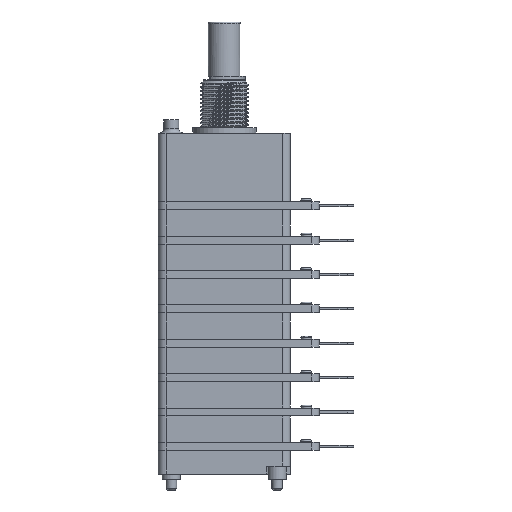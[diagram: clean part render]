
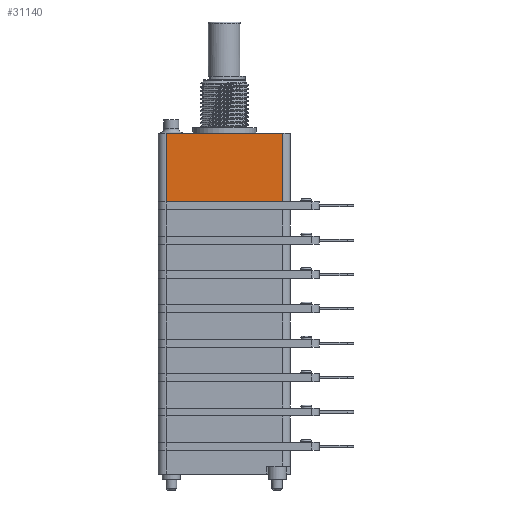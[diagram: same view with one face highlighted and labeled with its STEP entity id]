
A CAD part, left-side view. The second image highlights one B-rep face of the part: STEP entity #31140.
In plain terms, the highlighted planar face has unit normal (-1, 0, 0).
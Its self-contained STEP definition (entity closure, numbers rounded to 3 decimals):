
#27494 = PLANE('',#27495);
#27495 = AXIS2_PLACEMENT_3D('',#27496,#27497,#27498);
#27496 = CARTESIAN_POINT('',(-12.5,-18.,-15.5));
#27497 = DIRECTION('',(1.,0.,0.));
#27498 = DIRECTION('',(0.,0.,1.));
#29215 = VERTEX_POINT('',#29216);
#29216 = CARTESIAN_POINT('',(-12.5,-11.,-14.));
#29383 = CYLINDRICAL_SURFACE('',#29384,1.5);
#29384 = AXIS2_PLACEMENT_3D('',#29385,#29386,#29387);
#29385 = CARTESIAN_POINT('',(-11.,-11.,-14.));
#29386 = DIRECTION('',(0.,0.,1.));
#29387 = DIRECTION('',(-1.,0.,0.));
#29521 = PLANE('',#29522);
#29522 = AXIS2_PLACEMENT_3D('',#29523,#29524,#29525);
#29523 = CARTESIAN_POINT('',(-12.5,-12.5,-1.));
#29524 = DIRECTION('',(0.,0.,1.));
#29525 = DIRECTION('',(1.,0.,0.));
#29663 = VERTEX_POINT('',#29664);
#29664 = CARTESIAN_POINT('',(-12.5,11.,-14.));
#29679 = CYLINDRICAL_SURFACE('',#29680,1.5);
#29680 = AXIS2_PLACEMENT_3D('',#29681,#29682,#29683);
#29681 = CARTESIAN_POINT('',(-11.,11.,-14.));
#29682 = DIRECTION('',(0.,0.,1.));
#29683 = DIRECTION('',(-1.,0.,0.));
#29788 = EDGE_CURVE('',#29215,#29663,#29789,.T.);
#29789 = SURFACE_CURVE('',#29790,(#29794,#29801),.PCURVE_S1.);
#29790 = LINE('',#29791,#29792);
#29791 = CARTESIAN_POINT('',(-12.5,-18.,-14.));
#29792 = VECTOR('',#29793,1.);
#29793 = DIRECTION('',(0.,1.,0.));
#29794 = PCURVE('',#27494,#29795);
#29795 = DEFINITIONAL_REPRESENTATION('',(#29796),#29800);
#29796 = LINE('',#29797,#29798);
#29797 = CARTESIAN_POINT('',(1.5,0.));
#29798 = VECTOR('',#29799,1.);
#29799 = DIRECTION('',(0.,-1.));
#29800 = ( GEOMETRIC_REPRESENTATION_CONTEXT(2) 
PARAMETRIC_REPRESENTATION_CONTEXT() REPRESENTATION_CONTEXT('2D SPACE',''
  ) );
#29801 = PCURVE('',#29802,#29807);
#29802 = PLANE('',#29803);
#29803 = AXIS2_PLACEMENT_3D('',#29804,#29805,#29806);
#29804 = CARTESIAN_POINT('',(-12.5,-12.5,-14.));
#29805 = DIRECTION('',(1.,0.,0.));
#29806 = DIRECTION('',(0.,0.,1.));
#29807 = DEFINITIONAL_REPRESENTATION('',(#29808),#29812);
#29808 = LINE('',#29809,#29810);
#29809 = CARTESIAN_POINT('',(0.,5.5));
#29810 = VECTOR('',#29811,1.);
#29811 = DIRECTION('',(0.,-1.));
#29812 = ( GEOMETRIC_REPRESENTATION_CONTEXT(2) 
PARAMETRIC_REPRESENTATION_CONTEXT() REPRESENTATION_CONTEXT('2D SPACE',''
  ) );
#30638 = VERTEX_POINT('',#30639);
#30639 = CARTESIAN_POINT('',(-12.5,-11.,-1.));
#30661 = EDGE_CURVE('',#29215,#30638,#30662,.T.);
#30662 = SURFACE_CURVE('',#30663,(#30667,#30674),.PCURVE_S1.);
#30663 = LINE('',#30664,#30665);
#30664 = CARTESIAN_POINT('',(-12.5,-11.,-14.));
#30665 = VECTOR('',#30666,1.);
#30666 = DIRECTION('',(0.,0.,1.));
#30667 = PCURVE('',#29383,#30668);
#30668 = DEFINITIONAL_REPRESENTATION('',(#30669),#30673);
#30669 = LINE('',#30670,#30671);
#30670 = CARTESIAN_POINT('',(0.,0.));
#30671 = VECTOR('',#30672,1.);
#30672 = DIRECTION('',(0.,1.));
#30673 = ( GEOMETRIC_REPRESENTATION_CONTEXT(2) 
PARAMETRIC_REPRESENTATION_CONTEXT() REPRESENTATION_CONTEXT('2D SPACE',''
  ) );
#30674 = PCURVE('',#29802,#30675);
#30675 = DEFINITIONAL_REPRESENTATION('',(#30676),#30680);
#30676 = LINE('',#30677,#30678);
#30677 = CARTESIAN_POINT('',(0.,-1.5));
#30678 = VECTOR('',#30679,1.);
#30679 = DIRECTION('',(1.,0.));
#30680 = ( GEOMETRIC_REPRESENTATION_CONTEXT(2) 
PARAMETRIC_REPRESENTATION_CONTEXT() REPRESENTATION_CONTEXT('2D SPACE',''
  ) );
#30927 = EDGE_CURVE('',#30638,#30928,#30930,.T.);
#30928 = VERTEX_POINT('',#30929);
#30929 = CARTESIAN_POINT('',(-12.5,11.,-1.));
#30930 = SURFACE_CURVE('',#30931,(#30935,#30942),.PCURVE_S1.);
#30931 = LINE('',#30932,#30933);
#30932 = CARTESIAN_POINT('',(-12.5,-12.5,-1.));
#30933 = VECTOR('',#30934,1.);
#30934 = DIRECTION('',(0.,1.,0.));
#30935 = PCURVE('',#29521,#30936);
#30936 = DEFINITIONAL_REPRESENTATION('',(#30937),#30941);
#30937 = LINE('',#30938,#30939);
#30938 = CARTESIAN_POINT('',(0.,0.));
#30939 = VECTOR('',#30940,1.);
#30940 = DIRECTION('',(0.,1.));
#30941 = ( GEOMETRIC_REPRESENTATION_CONTEXT(2) 
PARAMETRIC_REPRESENTATION_CONTEXT() REPRESENTATION_CONTEXT('2D SPACE',''
  ) );
#30942 = PCURVE('',#29802,#30943);
#30943 = DEFINITIONAL_REPRESENTATION('',(#30944),#30948);
#30944 = LINE('',#30945,#30946);
#30945 = CARTESIAN_POINT('',(13.,0.));
#30946 = VECTOR('',#30947,1.);
#30947 = DIRECTION('',(0.,-1.));
#30948 = ( GEOMETRIC_REPRESENTATION_CONTEXT(2) 
PARAMETRIC_REPRESENTATION_CONTEXT() REPRESENTATION_CONTEXT('2D SPACE',''
  ) );
#31120 = EDGE_CURVE('',#29663,#30928,#31121,.T.);
#31121 = SURFACE_CURVE('',#31122,(#31126,#31133),.PCURVE_S1.);
#31122 = LINE('',#31123,#31124);
#31123 = CARTESIAN_POINT('',(-12.5,11.,-14.));
#31124 = VECTOR('',#31125,1.);
#31125 = DIRECTION('',(0.,0.,1.));
#31126 = PCURVE('',#29679,#31127);
#31127 = DEFINITIONAL_REPRESENTATION('',(#31128),#31132);
#31128 = LINE('',#31129,#31130);
#31129 = CARTESIAN_POINT('',(-0.,0.));
#31130 = VECTOR('',#31131,1.);
#31131 = DIRECTION('',(-0.,1.));
#31132 = ( GEOMETRIC_REPRESENTATION_CONTEXT(2) 
PARAMETRIC_REPRESENTATION_CONTEXT() REPRESENTATION_CONTEXT('2D SPACE',''
  ) );
#31133 = PCURVE('',#29802,#31134);
#31134 = DEFINITIONAL_REPRESENTATION('',(#31135),#31139);
#31135 = LINE('',#31136,#31137);
#31136 = CARTESIAN_POINT('',(0.,-23.5));
#31137 = VECTOR('',#31138,1.);
#31138 = DIRECTION('',(1.,0.));
#31139 = ( GEOMETRIC_REPRESENTATION_CONTEXT(2) 
PARAMETRIC_REPRESENTATION_CONTEXT() REPRESENTATION_CONTEXT('2D SPACE',''
  ) );
#31140 = ADVANCED_FACE('',(#31141),#29802,.F.);
#31141 = FACE_BOUND('',#31142,.F.);
#31142 = EDGE_LOOP('',(#31143,#31144,#31145,#31146));
#31143 = ORIENTED_EDGE('',*,*,#30927,.F.);
#31144 = ORIENTED_EDGE('',*,*,#30661,.F.);
#31145 = ORIENTED_EDGE('',*,*,#29788,.T.);
#31146 = ORIENTED_EDGE('',*,*,#31120,.T.);
